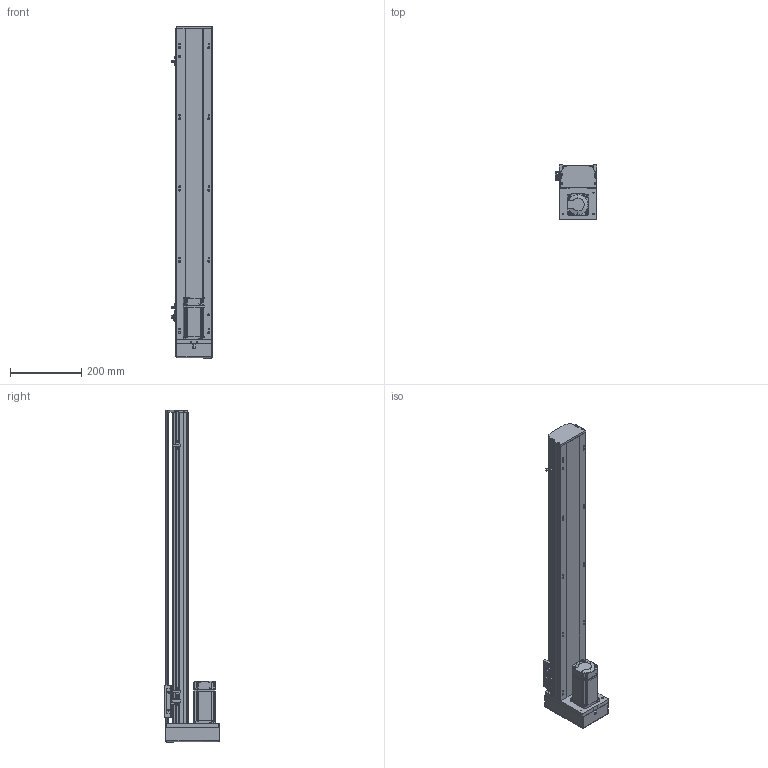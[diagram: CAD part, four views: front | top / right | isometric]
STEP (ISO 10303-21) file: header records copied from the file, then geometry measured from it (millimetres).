
FILE_DESCRIPTION (( 'STEP AP214' ), '1' );
FILE_NAME ('QTH10-700-BM-P20.STEP', '2021-11-13T14:57:45', ( '' ), ( '' ), 'SwSTEP 2.0', 'SolidWorks 2020', '' );
FILE_SCHEMA (( 'AUTOMOTIVE_DESIGN' ));
Length unit declared in the file: millimetre
Products named in the file (6): QTH10-700-BM-P20; 葩璃 QTH10-BC-005 賑釱MZ-102A-03 ^QTH10-BM-P20; 葩璃 pm-t65-672^QTH10-BM-P20; 葩璃 侂狟400W^QTH10-BM-P20; 葩璃 QTH10-BL-002 奻裔MZ-102A-02^QTH10-BM-P20; 葩璃 QTH10-BM-001 菁釱MZ-102A-01^QTH10-BM-P20
Assembly tree (7 placements, depth 2):
  QTH10-700-BM-P20
    葩璃 QTH10-BM-001 菁釱MZ-102A-01^QTH10-BM-P20
    葩璃 QTH10-BL-002 奻裔MZ-102A-02^QTH10-BM-P20
    葩璃 QTH10-BC-005 賑釱MZ-102A-03 ^QTH10-BM-P20
    葩璃 pm-t65-672^QTH10-BM-P20  x3
    葩璃 侂狟400W^QTH10-BM-P20
Bounding box: 117.2 x 153.5 x 931.5 mm (x, y, z)
Volume: 2561518 mm3; surface area: 676602.1 mm2
Topology: 12 solids, 12 shells, 1274 faces, 3415 edges, 2217 vertices
Faces by surface type: plane 744, cylinder 438, cone 66, bspline 26
Entity records: 34799 total; most frequent: CARTESIAN_POINT 6842, DIRECTION 5636, ORIENTED_EDGE 5474, EDGE_CURVE 2737, AXIS2_PLACEMENT_3D 1945, VERTEX_POINT 1793, VECTOR 1746, LINE 1746
